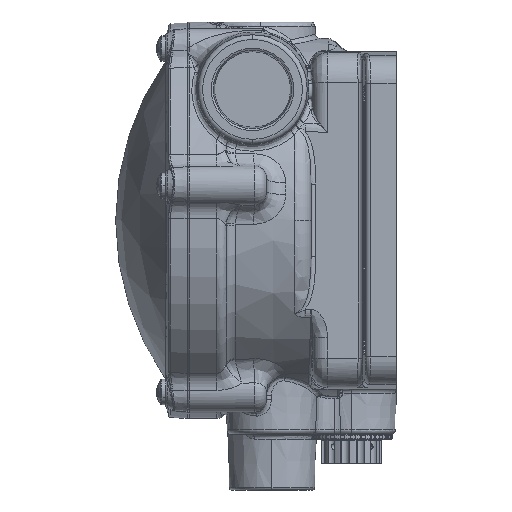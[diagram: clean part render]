
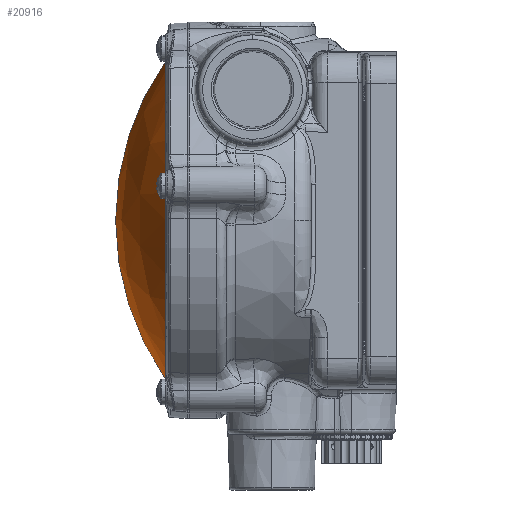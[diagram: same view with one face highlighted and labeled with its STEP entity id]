
A CAD part, left-side view. The second image highlights one B-rep face of the part: STEP entity #20916.
In plain terms, the highlighted spherical face has radius 88.9 mm.
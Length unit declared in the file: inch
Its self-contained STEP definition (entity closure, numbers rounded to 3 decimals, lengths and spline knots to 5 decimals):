
#8374 = AXIS2_PLACEMENT_3D ( 'NONE', #40545, #40541, #40570 ) ;
#20916 = ADVANCED_FACE ( 'NONE', ( #42882 ), #42861, .T. ) ;
#24368 = CIRCLE ( 'NONE', #77619, 3.5 ) ;
#24377 = CIRCLE ( 'NONE', #77617, 3.5 ) ;
#24648 = CIRCLE ( 'NONE', #77762, 2.00327 ) ;
#27292 = CARTESIAN_POINT ( 'NONE',  ( -1.56303, -0.50989, -0.06713 ) ) ;
#27293 = DIRECTION ( 'NONE',  ( -1., 0., 0. ) ) ;
#27294 = DIRECTION ( 'NONE',  ( 0., 0., 1. ) ) ;
#27296 = CARTESIAN_POINT ( 'NONE',  ( -1.56303, -0.50989, -0.06713 ) ) ;
#27297 = DIRECTION ( 'NONE',  ( 1., 0., 0. ) ) ;
#27298 = DIRECTION ( 'NONE',  ( 0., 0., -1. ) ) ;
#29102 = CARTESIAN_POINT ( 'NONE',  ( -1.56303, 2.36011, -0.06713 ) ) ;
#29103 = DIRECTION ( 'NONE',  ( 0., -1., 0. ) ) ;
#29104 = DIRECTION ( 'NONE',  ( 0., 0., -1. ) ) ;
#40541 = DIRECTION ( 'NONE',  ( 1., 0., 0. ) ) ;
#40545 = CARTESIAN_POINT ( 'NONE',  ( -1.56303, -0.50989, -0.06713 ) ) ;
#40570 = DIRECTION ( 'NONE',  ( 0., 0., -1. ) ) ;
#42861 = SPHERICAL_SURFACE ( 'NONE', #8374, 3.5 ) ;
#42882 = FACE_OUTER_BOUND ( 'NONE', #58588, .T. ) ;
#48668 = VERTEX_POINT ( 'NONE', #89702 ) ;
#48683 = VERTEX_POINT ( 'NONE', #89717 ) ;
#48692 = VERTEX_POINT ( 'NONE', #89726 ) ;
#58588 = EDGE_LOOP ( 'NONE', ( #77826, #77827, #77828 ) ) ;
#70415 = EDGE_CURVE ( 'NONE', #48692, #48668, #24377, .T. ) ;
#70416 = EDGE_CURVE ( 'NONE', #48692, #48683, #24368, .T. ) ;
#70558 = EDGE_CURVE ( 'NONE', #48683, #48668, #24648, .T. ) ;
#77617 = AXIS2_PLACEMENT_3D ( 'NONE', #27292, #27293, #27294 ) ;
#77619 = AXIS2_PLACEMENT_3D ( 'NONE', #27296, #27297, #27298 ) ;
#77762 = AXIS2_PLACEMENT_3D ( 'NONE', #29102, #29103, #29104 ) ;
#77826 = ORIENTED_EDGE ( 'NONE', *, *, #70416, .F. ) ;
#77827 = ORIENTED_EDGE ( 'NONE', *, *, #70415, .T. ) ;
#77828 = ORIENTED_EDGE ( 'NONE', *, *, #70558, .F. ) ;
#89702 = CARTESIAN_POINT ( 'NONE',  ( -1.56303, 2.36011, -2.07041 ) ) ;
#89717 = CARTESIAN_POINT ( 'NONE',  ( -1.56303, 2.36011, 1.93614 ) ) ;
#89726 = CARTESIAN_POINT ( 'NONE',  ( -1.56303, 2.99011, -0.06713 ) ) ;
